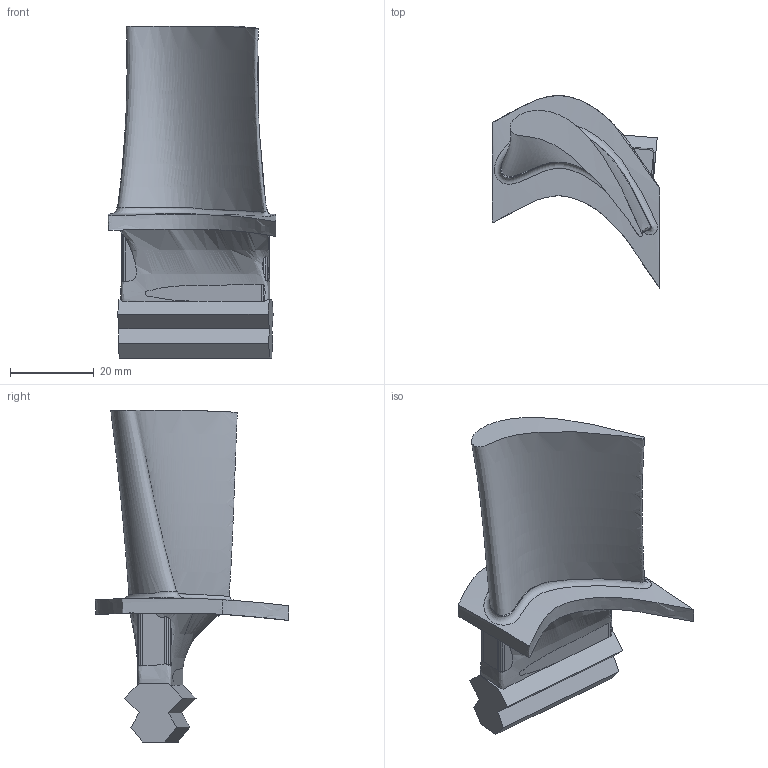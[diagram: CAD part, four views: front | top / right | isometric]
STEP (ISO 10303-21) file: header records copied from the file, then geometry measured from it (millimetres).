
FILE_DESCRIPTION(('HPT blade, current version, structural derivative: outer body and passage network only (no holes, ribs, pins, cut-back). Not validated by FEA.'),'2;1');
FILE_NAME('GE_EEDP_P01_HPT_Blade_structural_derivative_for_FEA.step','2026-10-06T00:00:00',('Tanish Shetty'), (''),'Open CASCADE STEP processor 7.9','Open CASCADE 7.9','');
FILE_SCHEMA(('AUTOMOTIVE_DESIGN { 1 0 10303 214 1 1 1 1 }'));
Products named in the file (1): Open CASCADE STEP translator 7.9 1
Bounding box: 40.12 x 46.23 x 79.5 mm (x, y, z)
Volume: 16935.9 mm3; surface area: 15401.7 mm2
Topology: 1 solids, 3 shells, 450 faces, 1396 edges, 946 vertices
Faces by surface type: plane 396, cylinder 40, bspline 14
Entity records: 231046 total; most frequent: CARTESIAN_POINT 206488, DIRECTION 3619, ORIENTED_EDGE 2764, PCURVE 2764, DEFINITIONAL_REPRESENTATION 2764, LINE 2148, VECTOR 2148, B_SPLINE_CURVE_WITH_KNOTS 1588
